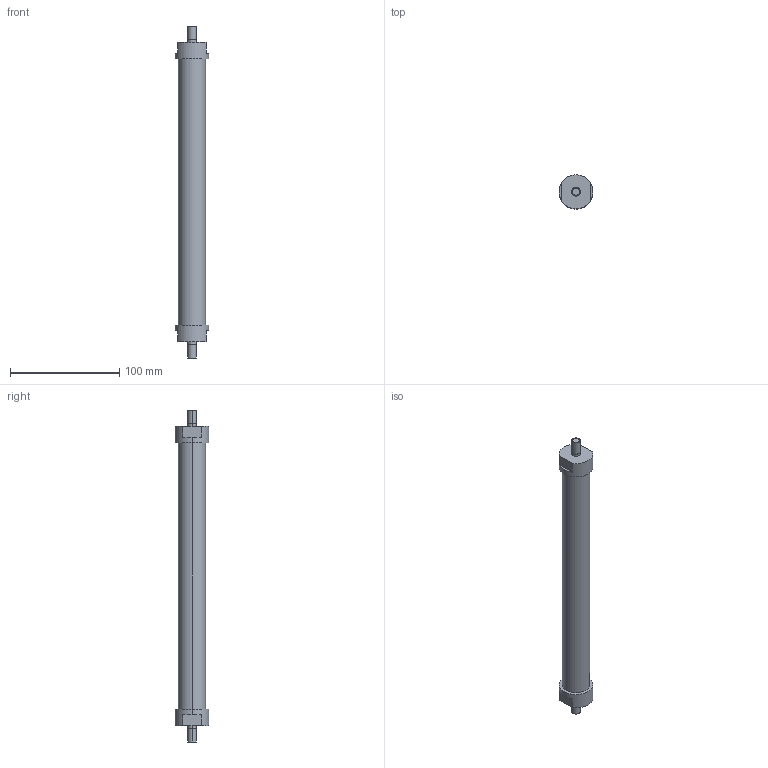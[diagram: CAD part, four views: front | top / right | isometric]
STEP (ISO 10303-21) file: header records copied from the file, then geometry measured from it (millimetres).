
FILE_DESCRIPTION(('STEP AP214'),'1');
FILE_NAME('ETT-R050N284.stp','2015-02-02T15:31:41',(' '),(' '),'Spatial InterOp 3D',' ',' ');
FILE_SCHEMA(('automotive_design'));
Length unit declared in the file: metre
Products named in the file (3): 1; 2; 3
Bounding box: 31 x 31 x 304 mm (x, y, z)
Volume: 142779.2 mm3; surface area: 25391.1 mm2
Topology: 1 solids, 7 shells, 30 faces, 81 edges, 63 vertices
Faces by surface type: plane 16, cylinder 14
Entity records: 1295 total; most frequent: DIRECTION 194, CARTESIAN_POINT 177, ORIENTED_EDGE 138, EDGE_CURVE 81, AXIS2_PLACEMENT_3D 80, VERTEX_POINT 63, CIRCLE 47, EDGE_LOOP 36
